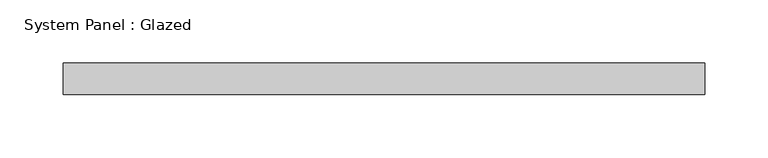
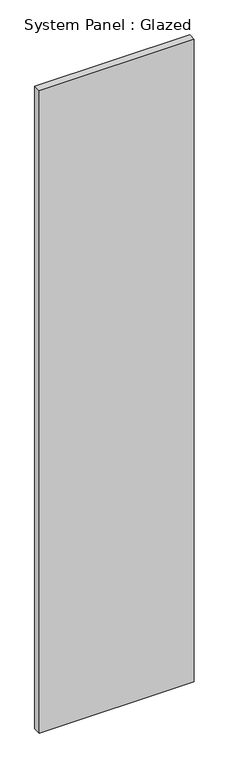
"""IFC4 building model written with IfcOpenShell, lengths in millimetres: plate geometry, System Panel : Glazed."""

from ifc_helpers import new_model, si_unit, origin, origin_with_axes, place, context, project, spatial, polyline, outline, extrude, source, transform, mapped, element, save


def system_panel_glazed_623b0429(model_context):
    return source(origin(), model_context, "Body", "SweptSolid", [
        extrude(outline(polyline([(254.1666666, 24.5), (-254.1666666, 24.5), (-254.1666666, 49.5), (254.1666666, 49.5), (254.1666666, 24.5)])), origin_with_axes(), (0.0, 0.0, 1.0), 2225.0),
    ])


if __name__ == "__main__":
    model = new_model("IFC4")
    model_context = context("Model", 3, world=origin())
    ifc_project = project(units=[si_unit("LENGTHUNIT", "METRE", prefix="MILLI")], contexts=[model_context])
    site = spatial("IfcSite", under=ifc_project)
    building = spatial("IfcBuilding", under=site)
    placement = place(None, origin())
    system_panel_glazed_shape = system_panel_glazed_623b0429(model_context)
    element("IfcPlate", 1, ObjectType="System Panel : Glazed", at=placement, inside=building, context=model_context, shape_type="MappedRepresentation", body=[
        mapped(system_panel_glazed_shape, transform((0.0, 0.0, 0.0), x_axis=(1.0, 0.0, 0.0), y_axis=(0.0, 1.0, 0.0), z_axis=(0.0, 0.0, 1.0))),
    ])
    save(model, "model.ifc")
